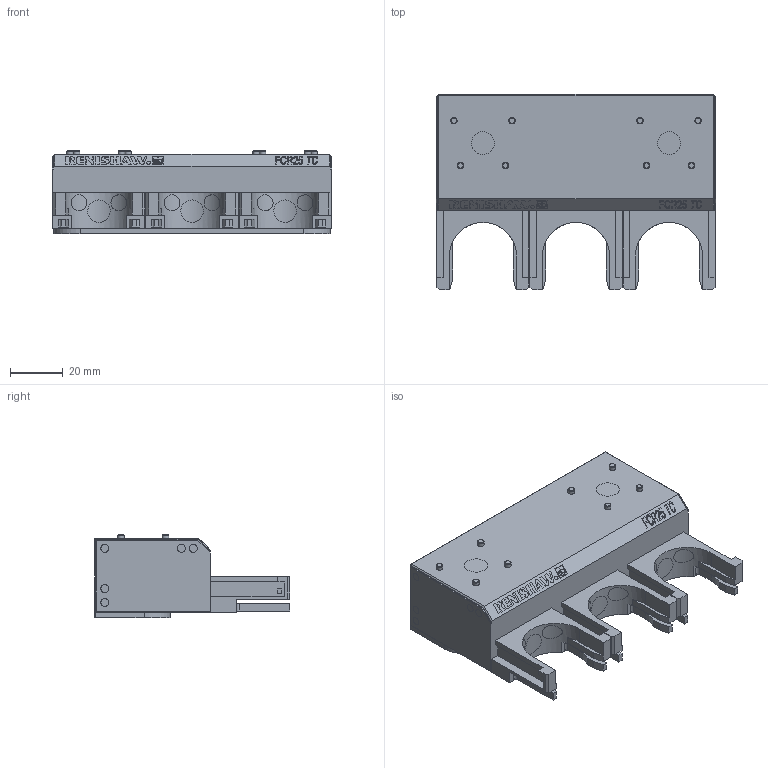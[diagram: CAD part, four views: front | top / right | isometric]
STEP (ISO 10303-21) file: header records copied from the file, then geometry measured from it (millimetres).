
FILE_DESCRIPTION(/* description */ (''),/* implementation_level */ '2;1');
FILE_NAME(/* name */ 'LA-2237-0008#-A.stp',/* time_stamp */ '2012-09-04T14:35:57+01:00',/* author */ (''),/* organization */ (''),/* preprocessor_version */ 'ST-DEVELOPER v11',/* originating_system */ 'SIEMENS PLM Software NX 7.5',/* authorisation */ '');
FILE_SCHEMA (('AUTOMOTIVE_DESIGN { 1 0 10303 214 1 1 1 1 }'));
Length unit declared in the file: millimetre
Products named in the file (1): rt133622tjqp
Bounding box: 105.75 x 74 x 31.5 mm (x, y, z)
Volume: 147985.2 mm3; surface area: 25960.7 mm2
Topology: 1 solids, 1 shells, 300 faces, 880 edges, 661 vertices
Faces by surface type: plane 238, cylinder 51, cone 9, bspline 2
Full cylindrical faces by diameter (mm): 2.5 x8, 6.1 x1
Entity records: 12835 total; most frequent: CARTESIAN_POINT 2562, ORIENTED_EDGE 1724, DIRECTION 1546, EDGE_CURVE 862, VERTEX_POINT 661, LINE 636, VECTOR 636, AXIS2_PLACEMENT_3D 455
